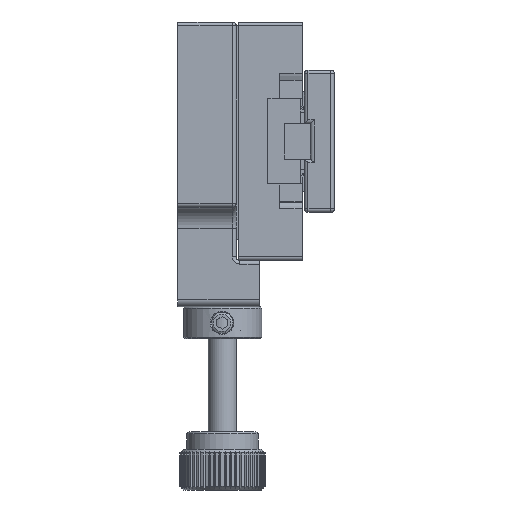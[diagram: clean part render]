
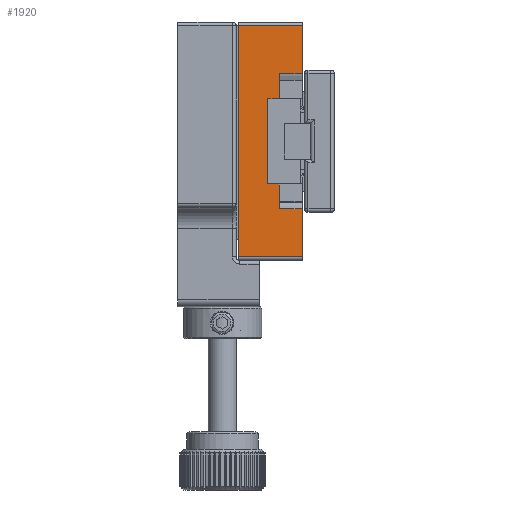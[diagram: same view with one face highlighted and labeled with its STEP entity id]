
A CAD part, left-side view. The second image highlights one B-rep face of the part: STEP entity #1920.
In plain terms, the highlighted planar face has unit normal (-1, 0, 0).
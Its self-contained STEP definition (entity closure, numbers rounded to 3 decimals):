
#1272 = EDGE_CURVE ( 'NONE', #14358, #14331, #22691, .T. ) ;
#1295 = EDGE_CURVE ( 'NONE', #25008, #14369, #22647, .T. ) ;
#1307 = EDGE_CURVE ( 'NONE', #14350, #14370, #22633, .T. ) ;
#1317 = EDGE_CURVE ( 'NONE', #14399, #14369, #22611, .T. ) ;
#1323 = EDGE_CURVE ( 'NONE', #14358, #25006, #22601, .T. ) ;
#1347 = EDGE_CURVE ( 'NONE', #14399, #14370, #22564, .T. ) ;
#1356 = EDGE_CURVE ( 'NONE', #14429, #14436, #22549, .T. ) ;
#1364 = EDGE_CURVE ( 'NONE', #25006, #25010, #22539, .T. ) ;
#1386 = EDGE_CURVE ( 'NONE', #14436, #14463, #22507, .T. ) ;
#1468 = EDGE_CURVE ( 'NONE', #25010, #14429, #22377, .T. ) ;
#1577 = EDGE_CURVE ( 'NONE', #14463, #14350, #22222, .T. ) ;
#1584 = EDGE_CURVE ( 'NONE', #25008, #14331, #22215, .T. ) ;
#1920 = ADVANCED_FACE ( 'NONE', ( #20953 ), #2998, .T. ) ;
#2987 = CARTESIAN_POINT ( 'NONE',  ( -29.6, -4.61, 8.794 ) ) ;
#2998 = PLANE ( 'NONE',  #23459 ) ;
#3003 = DIRECTION ( 'NONE',  ( -1., 0., 0. ) ) ;
#3005 = DIRECTION ( 'NONE',  ( 0., 0., 1. ) ) ;
#9145 = CARTESIAN_POINT ( 'NONE',  ( -29.6, -4.26, 14.794 ) ) ;
#9153 = DIRECTION ( 'NONE',  ( 0., 0., -1. ) ) ;
#11055 = CARTESIAN_POINT ( 'NONE',  ( -29.6, -5.91, -0.706 ) ) ;
#11068 = DIRECTION ( 'NONE',  ( 0., -1., 0. ) ) ;
#11075 = CARTESIAN_POINT ( 'NONE',  ( -29.6, -9.11, 18.794 ) ) ;
#11089 = DIRECTION ( 'NONE',  ( 0., 0., -1. ) ) ;
#13029 = EDGE_LOOP ( 'NONE', ( #24547, #24546, #24545, #24544, #24543, #24542, #24541, #24540, #24539, #24538, #24537, #24536 ) ) ;
#13778 = CARTESIAN_POINT ( 'NONE',  ( -29.6, -5.91, 14.794 ) ) ;
#13780 = CARTESIAN_POINT ( 'NONE',  ( -29.6, -9.11, 25.044 ) ) ;
#13782 = CARTESIAN_POINT ( 'NONE',  ( -29.6, -4.26, 14.794 ) ) ;
#14331 = VERTEX_POINT ( 'NONE', #14787 ) ;
#14350 = VERTEX_POINT ( 'NONE', #14804 ) ;
#14358 = VERTEX_POINT ( 'NONE', #14812 ) ;
#14369 = VERTEX_POINT ( 'NONE', #14823 ) ;
#14370 = VERTEX_POINT ( 'NONE', #14824 ) ;
#14399 = VERTEX_POINT ( 'NONE', #14853 ) ;
#14429 = VERTEX_POINT ( 'NONE', #14883 ) ;
#14436 = VERTEX_POINT ( 'NONE', #14890 ) ;
#14463 = VERTEX_POINT ( 'NONE', #14917 ) ;
#14787 = CARTESIAN_POINT ( 'NONE',  ( -29.6, -9.11, 18.294 ) ) ;
#14804 = CARTESIAN_POINT ( 'NONE',  ( -29.6, -9.11, -0.706 ) ) ;
#14812 = CARTESIAN_POINT ( 'NONE',  ( -29.6, -5.91, 18.294 ) ) ;
#14823 = CARTESIAN_POINT ( 'NONE',  ( -29.6, -0.11, 25.044 ) ) ;
#14824 = CARTESIAN_POINT ( 'NONE',  ( -29.6, -9.11, -7.456 ) ) ;
#14853 = CARTESIAN_POINT ( 'NONE',  ( -29.6, -0.11, -7.456 ) ) ;
#14883 = CARTESIAN_POINT ( 'NONE',  ( -29.6, -4.26, 2.794 ) ) ;
#14890 = CARTESIAN_POINT ( 'NONE',  ( -29.6, -5.91, 2.794 ) ) ;
#14917 = CARTESIAN_POINT ( 'NONE',  ( -29.6, -5.91, -0.706 ) ) ;
#20953 = FACE_OUTER_BOUND ( 'NONE', #13029, .T. ) ;
#22209 = VECTOR ( 'NONE', #11089, 1000. ) ;
#22215 = LINE ( 'NONE', #11075, #22209 ) ;
#22217 = VECTOR ( 'NONE', #11068, 1000. ) ;
#22222 = LINE ( 'NONE', #11055, #22217 ) ;
#22375 = VECTOR ( 'NONE', #9153, 1000. ) ;
#22377 = LINE ( 'NONE', #9145, #22375 ) ;
#22505 = VECTOR ( 'NONE', #26229, 1000. ) ;
#22507 = LINE ( 'NONE', #26211, #22505 ) ;
#22535 = VECTOR ( 'NONE', #26080, 1000. ) ;
#22539 = LINE ( 'NONE', #26072, #22535 ) ;
#22546 = VECTOR ( 'NONE', #26052, 1000. ) ;
#22549 = LINE ( 'NONE', #26050, #22546 ) ;
#22561 = VECTOR ( 'NONE', #26011, 1000. ) ;
#22564 = LINE ( 'NONE', #26009, #22561 ) ;
#22599 = VECTOR ( 'NONE', #25898, 1000. ) ;
#22601 = LINE ( 'NONE', #25888, #22599 ) ;
#22608 = VECTOR ( 'NONE', #25882, 1000. ) ;
#22611 = LINE ( 'NONE', #25879, #22608 ) ;
#22625 = VECTOR ( 'NONE', #25857, 1000. ) ;
#22633 = LINE ( 'NONE', #25841, #22625 ) ;
#22645 = VECTOR ( 'NONE', #25818, 1000. ) ;
#22647 = LINE ( 'NONE', #25820, #22645 ) ;
#22685 = VECTOR ( 'NONE', #25760, 1000. ) ;
#22691 = LINE ( 'NONE', #25771, #22685 ) ;
#23459 = AXIS2_PLACEMENT_3D ( 'NONE', #2987, #3003, #3005 ) ;
#24536 = ORIENTED_EDGE ( 'NONE', *, *, #1295, .T. ) ;
#24537 = ORIENTED_EDGE ( 'NONE', *, *, #1584, .F. ) ;
#24538 = ORIENTED_EDGE ( 'NONE', *, *, #1272, .T. ) ;
#24539 = ORIENTED_EDGE ( 'NONE', *, *, #1323, .F. ) ;
#24540 = ORIENTED_EDGE ( 'NONE', *, *, #1364, .F. ) ;
#24541 = ORIENTED_EDGE ( 'NONE', *, *, #1468, .F. ) ;
#24542 = ORIENTED_EDGE ( 'NONE', *, *, #1356, .F. ) ;
#24543 = ORIENTED_EDGE ( 'NONE', *, *, #1386, .F. ) ;
#24544 = ORIENTED_EDGE ( 'NONE', *, *, #1577, .F. ) ;
#24545 = ORIENTED_EDGE ( 'NONE', *, *, #1307, .F. ) ;
#24546 = ORIENTED_EDGE ( 'NONE', *, *, #1347, .T. ) ;
#24547 = ORIENTED_EDGE ( 'NONE', *, *, #1317, .F. ) ;
#25006 = VERTEX_POINT ( 'NONE', #13778 ) ;
#25008 = VERTEX_POINT ( 'NONE', #13780 ) ;
#25010 = VERTEX_POINT ( 'NONE', #13782 ) ;
#25760 = DIRECTION ( 'NONE',  ( 0., -1., 0. ) ) ;
#25771 = CARTESIAN_POINT ( 'NONE',  ( -29.6, -5.91, 18.294 ) ) ;
#25818 = DIRECTION ( 'NONE',  ( 0., 1., 0. ) ) ;
#25820 = CARTESIAN_POINT ( 'NONE',  ( -29.6, -4.61, 25.044 ) ) ;
#25841 = CARTESIAN_POINT ( 'NONE',  ( -29.6, -9.11, 2.794 ) ) ;
#25857 = DIRECTION ( 'NONE',  ( 0., 0., -1. ) ) ;
#25879 = CARTESIAN_POINT ( 'NONE',  ( -29.6, -0.11, 18.794 ) ) ;
#25882 = DIRECTION ( 'NONE',  ( 0., 0., 1. ) ) ;
#25888 = CARTESIAN_POINT ( 'NONE',  ( -29.6, -5.91, 18.294 ) ) ;
#25898 = DIRECTION ( 'NONE',  ( 0., 0., -1. ) ) ;
#26009 = CARTESIAN_POINT ( 'NONE',  ( -29.6, -4.61, -7.456 ) ) ;
#26011 = DIRECTION ( 'NONE',  ( 0., -1., 0. ) ) ;
#26050 = CARTESIAN_POINT ( 'NONE',  ( -29.6, -9.11, 2.794 ) ) ;
#26052 = DIRECTION ( 'NONE',  ( 0., -1., 0. ) ) ;
#26072 = CARTESIAN_POINT ( 'NONE',  ( -29.6, -9.11, 14.794 ) ) ;
#26080 = DIRECTION ( 'NONE',  ( 0., 1., 0. ) ) ;
#26211 = CARTESIAN_POINT ( 'NONE',  ( -29.6, -5.91, -0.706 ) ) ;
#26229 = DIRECTION ( 'NONE',  ( 0., 0., -1. ) ) ;
